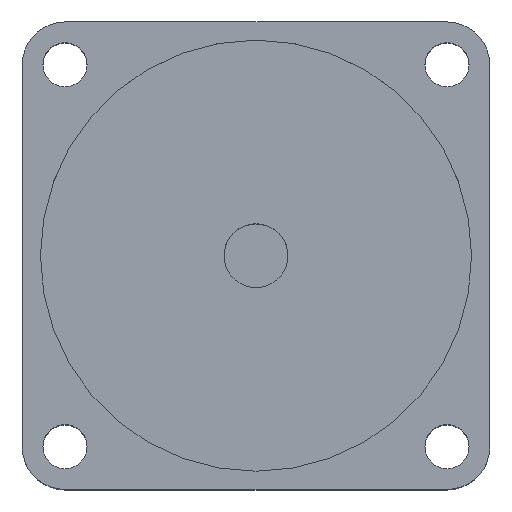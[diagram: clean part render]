
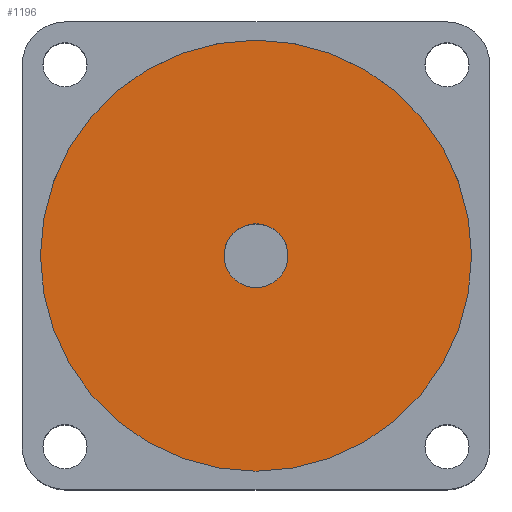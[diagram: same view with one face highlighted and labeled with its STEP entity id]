
A CAD part, top view. The second image highlights one B-rep face of the part: STEP entity #1196.
In plain terms, the highlighted planar face has unit normal (0, 0, 1).
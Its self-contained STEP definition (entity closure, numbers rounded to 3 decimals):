
#35 = ORIENTED_EDGE ( 'NONE', *, *, #916, .T. ) ;
#57 = CARTESIAN_POINT ( 'NONE',  ( 0., 0., -2. ) ) ;
#75 = CARTESIAN_POINT ( 'NONE',  ( 0., 0., -2. ) ) ;
#175 = VERTEX_POINT ( 'NONE', #1274 ) ;
#318 = AXIS2_PLACEMENT_3D ( 'NONE', #914, #1143, #1394 ) ;
#334 = DIRECTION ( 'NONE',  ( 0., 0., 1. ) ) ;
#365 = DIRECTION ( 'NONE',  ( 1., 0., 0. ) ) ;
#419 = FACE_OUTER_BOUND ( 'NONE', #645, .T. ) ;
#425 = ORIENTED_EDGE ( 'NONE', *, *, #1300, .T. ) ;
#436 = AXIS2_PLACEMENT_3D ( 'NONE', #75, #1502, #365 ) ;
#635 = DIRECTION ( 'NONE',  ( 1., 0., 0. ) ) ;
#645 = EDGE_LOOP ( 'NONE', ( #668, #750 ) ) ;
#662 = VERTEX_POINT ( 'NONE', #1119 ) ;
#664 = PLANE ( 'NONE',  #318 ) ;
#668 = ORIENTED_EDGE ( 'NONE', *, *, #1326, .T. ) ;
#681 = CARTESIAN_POINT ( 'NONE',  ( -6.15, 0., -2. ) ) ;
#706 = CIRCLE ( 'NONE', #436, 6.15 ) ;
#750 = ORIENTED_EDGE ( 'NONE', *, *, #1445, .T. ) ;
#781 = DIRECTION ( 'NONE',  ( 0., 0., -1. ) ) ;
#825 = VERTEX_POINT ( 'NONE', #681 ) ;
#894 = FACE_BOUND ( 'NONE', #1343, .T. ) ;
#914 = CARTESIAN_POINT ( 'NONE',  ( 0., 0., -2. ) ) ;
#916 = EDGE_CURVE ( 'NONE', #662, #825, #706, .T. ) ;
#918 = CIRCLE ( 'NONE', #1113, 41.5 ) ;
#970 = DIRECTION ( 'NONE',  ( 1., 0., 0. ) ) ;
#985 = CIRCLE ( 'NONE', #1085, 41.5 ) ;
#1085 = AXIS2_PLACEMENT_3D ( 'NONE', #1536, #334, #970 ) ;
#1113 = AXIS2_PLACEMENT_3D ( 'NONE', #57, #1471, #635 ) ;
#1119 = CARTESIAN_POINT ( 'NONE',  ( 6.15, 0., -2. ) ) ;
#1124 = CARTESIAN_POINT ( 'NONE',  ( -41.5, 0., -2. ) ) ;
#1132 = VERTEX_POINT ( 'NONE', #1124 ) ;
#1143 = DIRECTION ( 'NONE',  ( 0., 0., 1. ) ) ;
#1144 = CIRCLE ( 'NONE', #1491, 6.15 ) ;
#1196 = ADVANCED_FACE ( 'NONE', ( #419, #894 ), #664, .T. ) ;
#1255 = CARTESIAN_POINT ( 'NONE',  ( 0., 0., -2. ) ) ;
#1268 = DIRECTION ( 'NONE',  ( 1., 0., 0. ) ) ;
#1274 = CARTESIAN_POINT ( 'NONE',  ( 41.5, 0., -2. ) ) ;
#1300 = EDGE_CURVE ( 'NONE', #825, #662, #1144, .T. ) ;
#1326 = EDGE_CURVE ( 'NONE', #175, #1132, #985, .T. ) ;
#1343 = EDGE_LOOP ( 'NONE', ( #35, #425 ) ) ;
#1394 = DIRECTION ( 'NONE',  ( 1., 0., 0. ) ) ;
#1445 = EDGE_CURVE ( 'NONE', #1132, #175, #918, .T. ) ;
#1471 = DIRECTION ( 'NONE',  ( 0., 0., 1. ) ) ;
#1491 = AXIS2_PLACEMENT_3D ( 'NONE', #1255, #781, #1268 ) ;
#1502 = DIRECTION ( 'NONE',  ( 0., 0., -1. ) ) ;
#1536 = CARTESIAN_POINT ( 'NONE',  ( 0., 0., -2. ) ) ;
